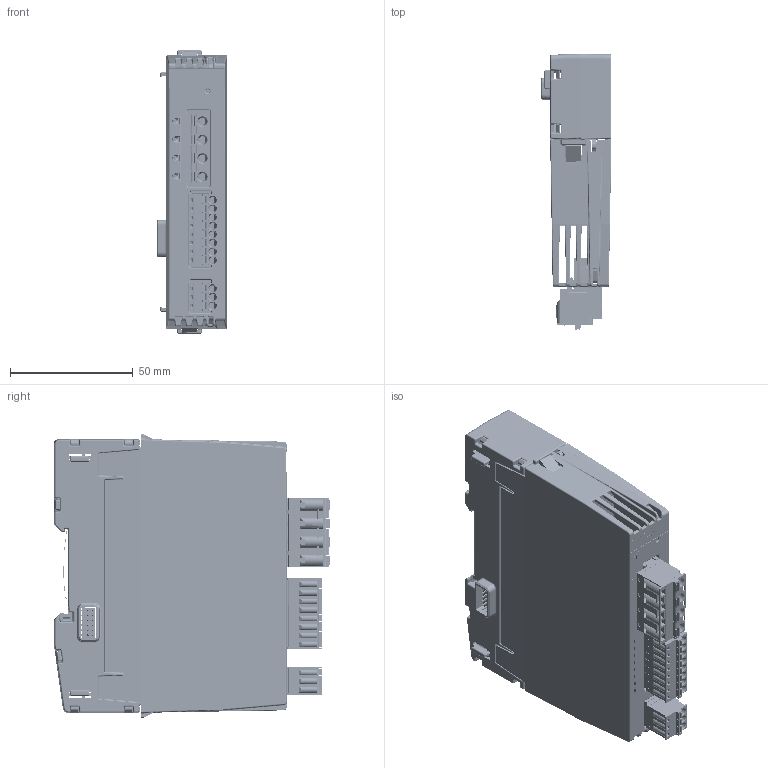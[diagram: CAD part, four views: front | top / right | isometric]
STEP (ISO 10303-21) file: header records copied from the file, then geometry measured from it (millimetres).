
FILE_DESCRIPTION(/* description */ (''),/* implementation_level */ '2;1');
FILE_NAME(/* name */ 'C:\Users\Public\Documents\Autodesk\Inventor 2023\PML3A_Simplified+BackBB21B.stp',/* time_stamp */ '2024-10-18T22:43:20+02:00',/* author */ ('shoma'),/* organization */ (''),/* preprocessor_version */ 'ST-DEVELOPER v19',/* originating_system */ 'Autodesk Inventor 2023',/* authorisation */ '');
FILE_SCHEMA (('AUTOMOTIVE_DESIGN { 1 0 10303 214 3 1 1 }'));
Products named in the file (1): PML3A_Simplified+BackBB21B
Bounding box: 28.9 x 112.6 x 115.5 mm (x, y, z)
Volume: 134090.4 mm3; surface area: 87889.5 mm2
Topology: 8 solids, 41 shells, 8256 faces, 22067 edges, 13873 vertices
Faces by surface type: plane 5316, cylinder 2059, bspline 537, sphere 163, cone 135, torus 46
Full cylindrical faces by diameter (mm): 0.296 x2, 0.3 x36, 0.434 x1, 0.457 x2, 0.7 x36, 0.8 x6, 0.85 x24, 0.9 x8, 1.17 x11, 1.25 x11, 1.3 x11, 1.4 x8, 1.5 x4, 1.6 x9, 2.35 x2, 2.5 x1, 2.8 x3, 3 x5, 3.1 x11, 3.25 x2, 4 x4
Entity records: 279728 total; most frequent: CARTESIAN_POINT 65238, ORIENTED_EDGE 43788, DIRECTION 41694, EDGE_CURVE 21894, LINE 15952, VECTOR 15952, VERTEX_POINT 13869, AXIS2_PLACEMENT_3D 12871
